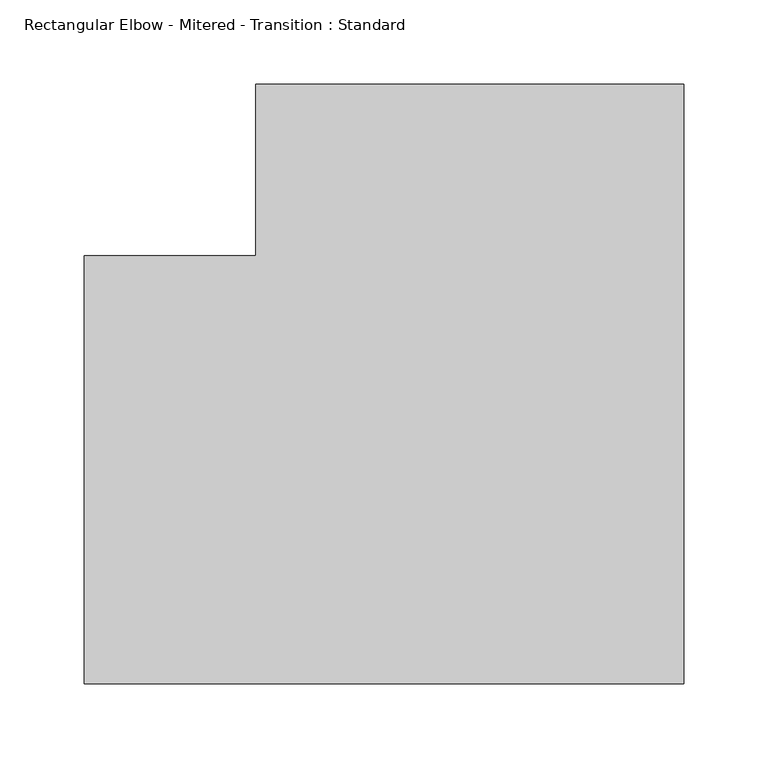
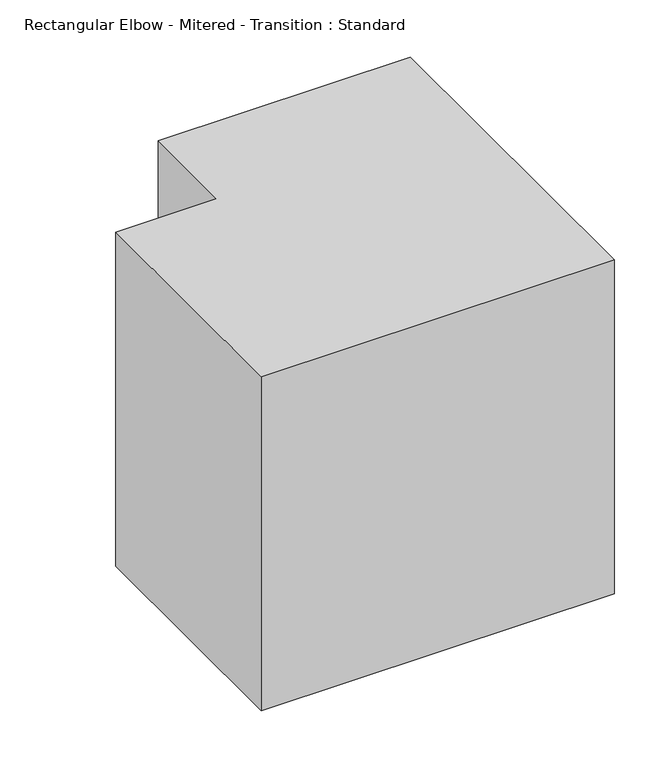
"""IFC4 building model written with IfcOpenShell, lengths in millimetres: duct fitting geometry, Rectangular Elbow - Mitered - Transition : Standard."""

from ifc_helpers import new_model, si_unit, frame, origin, place, context, project, spatial, polyline, outline, extrude, source, transform, mapped, element, save


def rectangular_elbow_mitered_transition_standard_eba0128a(model_context):
    return source(origin(), model_context, "Body", "SweptSolid", [
        extrude(outline(polyline([(-127.0, 127.0), (-127.0, 228.6), (127.0, 228.6), (127.0, -127.0), (-228.6, -127.0), (-228.6, 127.0), (-127.0, 127.0)])), frame((0.0, 0.0, -177.8), z_axis=(0.0, 0.0, 1.0), x_axis=(1.0, 0.0, 0.0)), (0.0, 0.0, 1.0), 355.6),
    ])


if __name__ == "__main__":
    model = new_model("IFC4")
    model_context = context("Model", 3, world=origin())
    ifc_project = project(units=[si_unit("LENGTHUNIT", "METRE", prefix="MILLI")], contexts=[model_context])
    site = spatial("IfcSite", under=ifc_project)
    building = spatial("IfcBuilding", under=site)
    placement = place(None, origin())
    rectangular_elbow_mitered_transition_standard_shape = rectangular_elbow_mitered_transition_standard_eba0128a(model_context)
    element("IfcDuctFitting", 1, ObjectType="Rectangular Elbow - Mitered - Transition : Standard", at=placement, inside=building, context=model_context, shape_type="MappedRepresentation", body=[
        mapped(rectangular_elbow_mitered_transition_standard_shape, transform((0.0, 0.0, 0.0), x_axis=(1.0, 0.0, 0.0), y_axis=(0.0, 1.0, 0.0), z_axis=(0.0, 0.0, 1.0))),
    ])
    save(model, "model.ifc")
